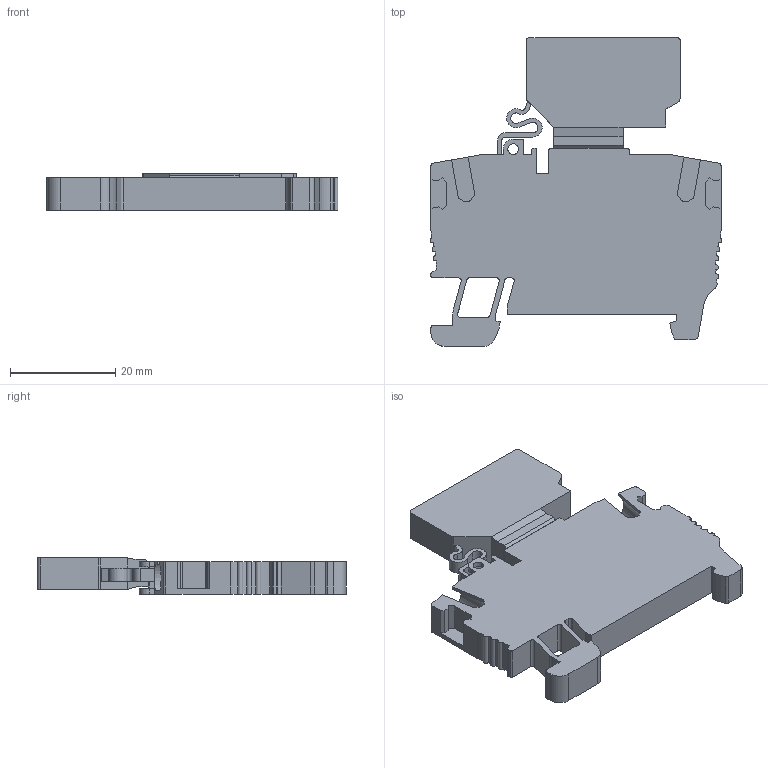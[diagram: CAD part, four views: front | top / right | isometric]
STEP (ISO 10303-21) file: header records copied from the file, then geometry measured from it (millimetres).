
FILE_DESCRIPTION(('Creo Elements/Direct Modeling STEP Export'),'2;1');
FILE_NAME('EFS402GR.stp','2020-02-27T14:17:27',(''),(''),'Creo Elements/Direct Modeling STEP processor for AP214 (Solid Model)','Creo Elements/Direct Modeling 20.2A 23-Sep-2019 (C) Parametric Technology GmbH','');
FILE_SCHEMA(('AUTOMOTIVE_DESIGN { 1 0 10303 214 1 1 1 1 }'));
Length unit declared in the file: millimetre
Products named in the file (2): EFS402GR
Assembly tree (1 placements, depth 2):
  EFS402GR
    EFS402GR
Bounding box: 55.56 x 58.7 x 6.9 mm (x, y, z)
Volume: 12438.7 mm3; surface area: 7381.4 mm2
Topology: 1 solids, 1 shells, 252 faces, 722 edges, 480 vertices
Faces by surface type: plane 173, cylinder 79
Entity records: 8646 total; most frequent: ORIENTED_EDGE 1444, CARTESIAN_POINT 1416, DIRECTION 1329, EDGE_CURVE 722, VECTOR 543, LINE 543, VERTEX_POINT 480, AXIS2_PLACEMENT_3D 393
